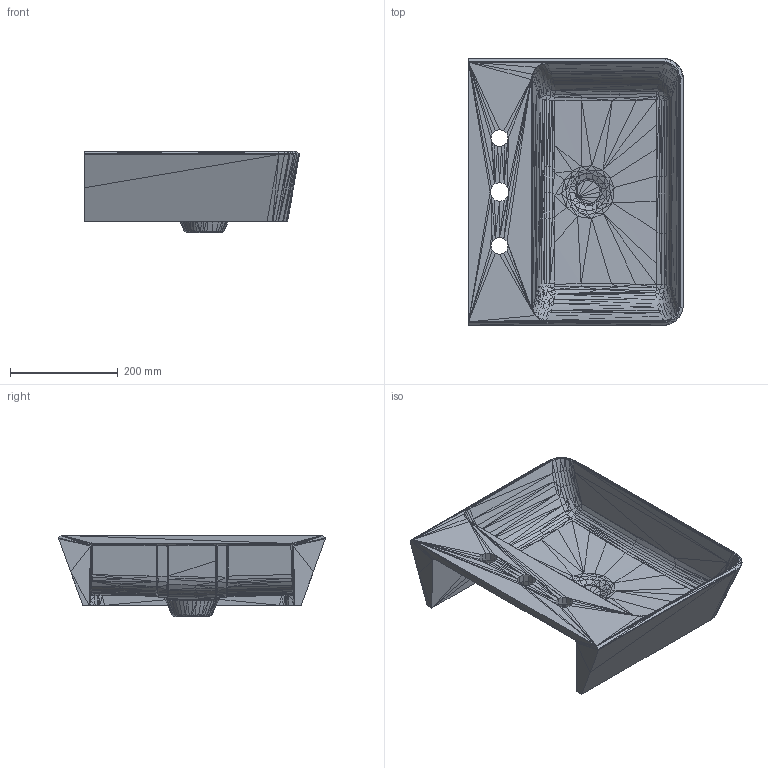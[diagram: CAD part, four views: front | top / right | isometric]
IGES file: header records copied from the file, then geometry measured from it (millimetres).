
Global section: file name: C:\Users\Sam Altman L JackSon\Downloads\Additional 2D and 3D files required for V+A NPD\Vetralla 50 3 holes\Vetralla 50 3 hole - 3d igs.igs; native system: Rhinoceros ( Mar  4 2026 ); preprocessor: Trout Lake IGES 012 Mar  4 2026; date: 260508.110452; units: millimetre
Bounding box: 398.98 x 495.79 x 151.12 mm (x, y, z)
Surface area: 755731.5 mm2 (no closed solid volume)
Topology: 0 solids, 0 shells, 2866 faces, 9072 edges, 9072 vertices
Faces by surface type: bspline 2866
